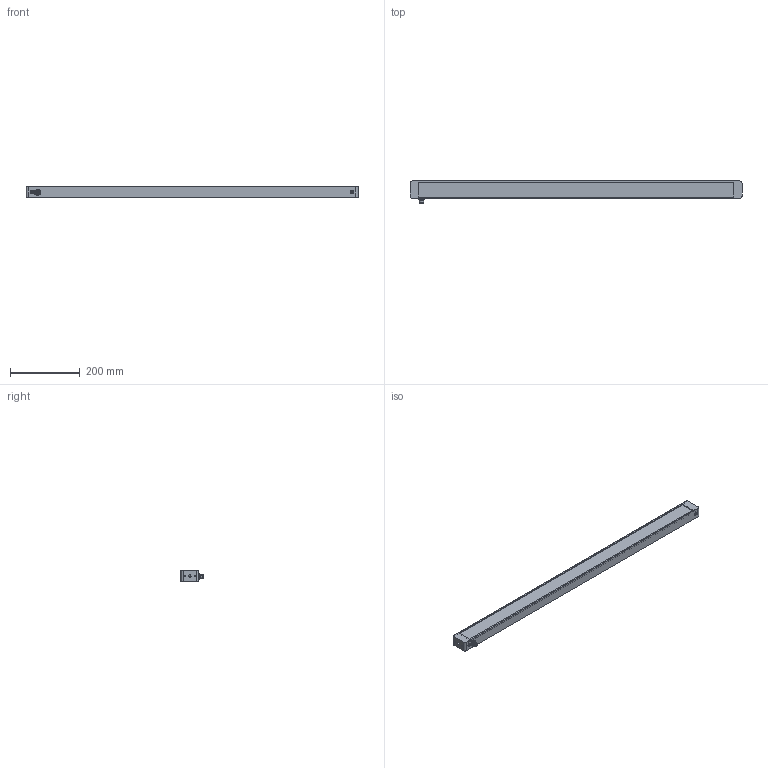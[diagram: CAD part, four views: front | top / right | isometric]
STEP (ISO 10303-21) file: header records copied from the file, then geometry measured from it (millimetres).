
FILE_DESCRIPTION(/* description */ (''),/* implementation_level */ '2;1');
FILE_NAME(/* name */ 'C:/Users/User/Desktop/10580701_950_V1.0.2_20200313.step',/* time_stamp */ '2020-03-13T17:02:55+01:00',/* author */ (''),/* organization */ (''),/* preprocessor_version */ 'ST-DEVELOPER v18',/* originating_system */ 'Autodesk Translation Framework v8.12.0.6',/* authorisation */ '');
FILE_SCHEMA (('AUTOMOTIVE_DESIGN { 1 0 10303 214 3 1 1 }'));
Length unit declared in the file: millimetre
Products named in the file (2): 10580701_950_Assembly_V1.0.2_20200313; Component754
Assembly tree (1 placements, depth 2):
  10580701_950_Assembly_V1.0.2_20200313
    Component754
Bounding box: 950 x 63 x 30 mm (x, y, z)
Volume: 542879.6 mm3; surface area: 292998.8 mm2
Topology: 1 solids, 20 shells, 528 faces, 1413 edges, 945 vertices
Faces by surface type: plane 274, cylinder 102, cone 77, bspline 54, torus 21
Full cylindrical faces by diameter (mm): 0.56 x4, 1 x4, 2.5 x28, 3 x1, 4 x7, 4.2 x7, 5.283 x4, 5.5 x1, 7.283 x2, 8.3 x1, 8.4 x7, 9.85 x1, 10 x1, 10.5 x1, 10.65 x1, 12 x1, 12.15 x1, 13.4 x1, 14.5 x1, 16.5 x1
Entity records: 19014 total; most frequent: CARTESIAN_POINT 5814, ORIENTED_EDGE 2782, DIRECTION 2686, EDGE_CURVE 1391, AXIS2_PLACEMENT_3D 1018, VERTEX_POINT 945, LINE 650, VECTOR 650
